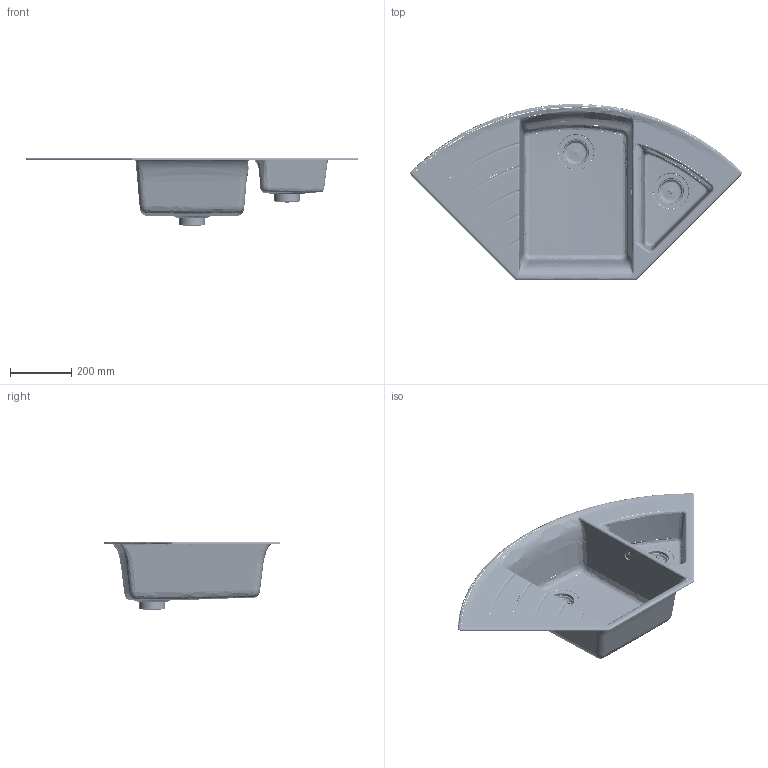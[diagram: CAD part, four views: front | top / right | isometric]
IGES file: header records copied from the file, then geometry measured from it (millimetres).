
Global section: file name: /Volumes/__KUNDEN/____01_SCHOCK/____projekte_schock/__RENDERINGS/__SPUELEN/02_3D Daten/02_PERSPEKTIVEN/Rhino/_SPU; native system: Rhinoceros ( Aug 27 2014 ); preprocessor: Trout Lake IGES 012 Aug 27 2014; date: 141104.084505; units: millimetre
Bounding box: 1082.22 x 575 x 224.23 mm (x, y, z)
Surface area: 835437.6 mm2 (no closed solid volume)
Topology: 0 solids, 0 shells, 801 faces, 84233 edges, 84211 vertices
Faces by surface type: bspline 801
